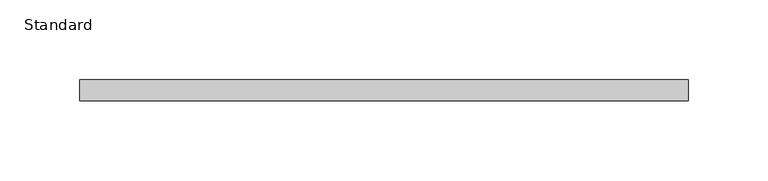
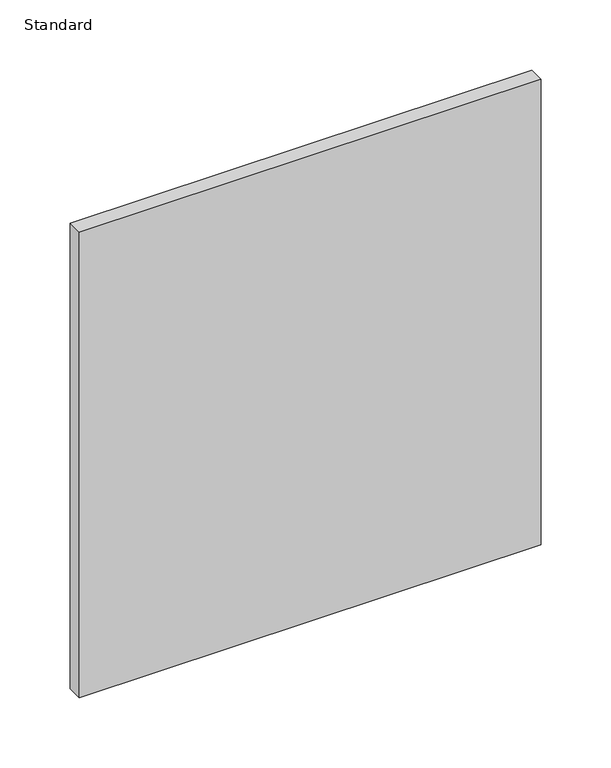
"""IFC4 building model written with IfcOpenShell, lengths in millimetres: furniture geometry, X_Partition-Compact Laminate-Duracube-Cabinet Door : Standard."""

from ifc_helpers import new_model, si_unit, frame, origin, place, context, project, spatial, polyline, outline, extrude, source, transform, mapped, element, save


def standard_bca626b4(model_context):
    return source(origin(), model_context, "Body", "SweptSolid", [
        extrude(outline(polyline([(235.2003264, 13.0), (235.2003264, 0.0), (-145.7996736, 0.0), (-145.7996736, 13.0), (235.2003264, 13.0)])), frame((0.0, 0.0, 3.0), z_axis=(0.0, 0.0, 1.0), x_axis=(1.0, 0.0, 0.0)), (0.0, 0.0, 1.0), 406.0),
    ])


if __name__ == "__main__":
    model = new_model("IFC4")
    model_context = context("Model", 3, world=origin())
    ifc_project = project(units=[si_unit("LENGTHUNIT", "METRE", prefix="MILLI")], contexts=[model_context])
    site = spatial("IfcSite", under=ifc_project)
    building = spatial("IfcBuilding", under=site)
    placement = place(None, origin())
    standard_shape = standard_bca626b4(model_context)
    element("IfcFurniture", 1, ObjectType="X_Partition-Compact Laminate-Duracube-Cabinet Door : Standard", at=placement, inside=building, context=model_context, shape_type="MappedRepresentation", body=[
        mapped(standard_shape, transform((0.0, 0.0, 0.0), x_axis=(1.0, 0.0, 0.0), y_axis=(0.0, 1.0, 0.0), z_axis=(0.0, 0.0, 1.0))),
    ])
    save(model, "model.ifc")
